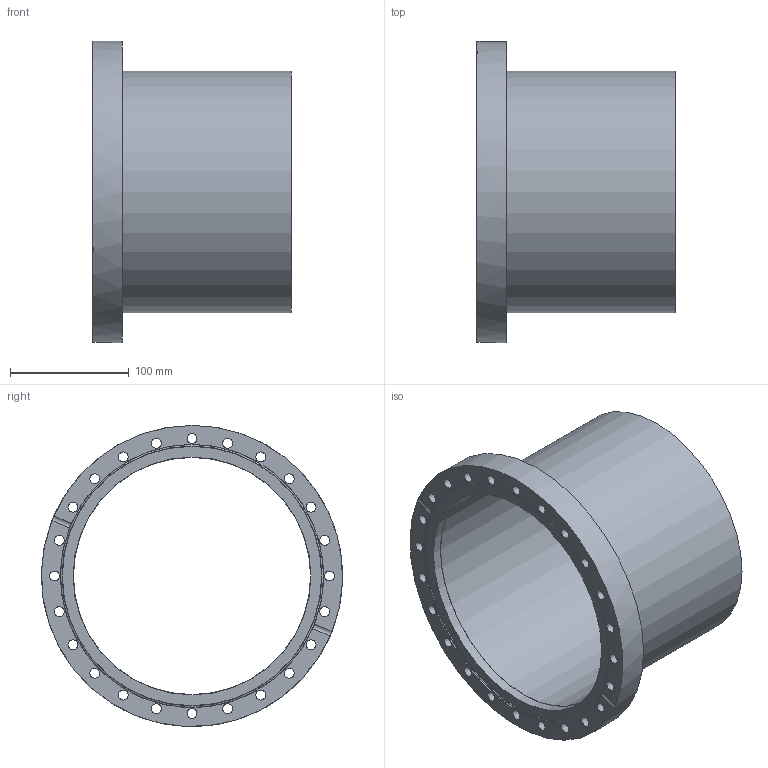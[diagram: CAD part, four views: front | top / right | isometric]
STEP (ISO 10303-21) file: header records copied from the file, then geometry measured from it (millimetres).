
FILE_DESCRIPTION( ( 'Unknown' ), '1' );
FILE_NAME( 'X:/Daten ( aktueller Bestand )/Projekte und Zeichnungen/Solid Edge/STP-Dateien/CF-Teile/7576F.stp', 'Unknown', ( 'Unknown' ), ( 'Unknown' ), 'PSStep 14.0', 'Unknown', ' ' );
FILE_SCHEMA( ( 'AUTOMOTIVE_DESIGN { 1 0 10303 214 1 1 1 1 }' ) );
Length unit declared in the file: millimetre
Products named in the file (3): Assem1; 7516F; 7576F-1
Assembly tree (2 placements, depth 2):
  Assem1
    7516F
    7576F-1
Bounding box: 167 x 254 x 254 mm (x, y, z)
Volume: 609994.8 mm3; surface area: 289187.8 mm2
Topology: 2 solids, 2 shells, 41 faces, 130 edges, 94 vertices
Faces by surface type: cylinder 32, plane 7, cone 2
Full cylindrical faces by diameter (mm): 8.4 x24, 200 x1, 200.5 x1, 204 x1, 204.3 x1, 222 x1, 254 x1
Entity records: 1656 total; most frequent: CARTESIAN_POINT 252, DIRECTION 220, ORIENTED_EDGE 144, EDGE_LOOP 126, AXIS2_PLACEMENT_3D 108, EDGE_CURVE 72, FACE_OUTER_BOUND 71, VERTEX_POINT 68
